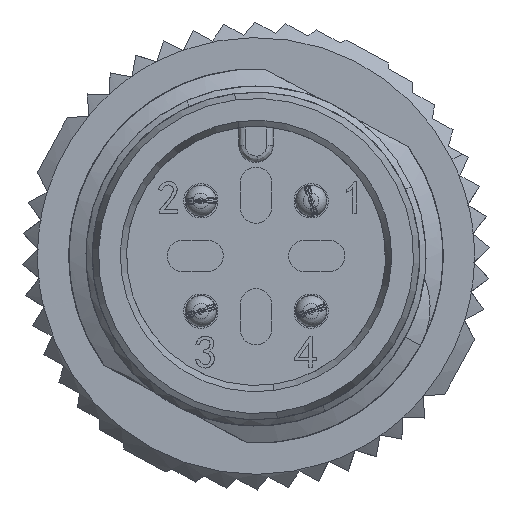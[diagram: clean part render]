
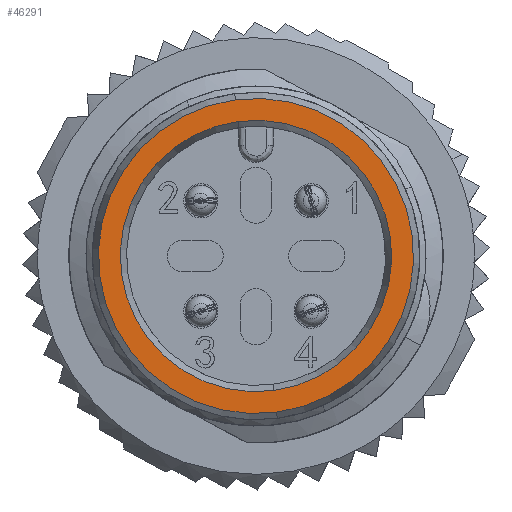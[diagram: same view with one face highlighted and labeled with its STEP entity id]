
A CAD part, left-side view. The second image highlights one B-rep face of the part: STEP entity #46291.
In plain terms, the highlighted planar face has unit normal (-1, 0, 0).
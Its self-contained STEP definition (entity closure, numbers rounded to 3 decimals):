
#536 = ORIENTED_EDGE ( 'NONE', *, *, #43143, .F. ) ;
#656 = DIRECTION ( 'NONE',  ( 0., 0.13, 0.991 ) ) ;
#1501 = DIRECTION ( 'NONE',  ( 1., 0., 0. ) ) ;
#1728 = FACE_OUTER_BOUND ( 'NONE', #12267, .T. ) ;
#2282 = DIRECTION ( 'NONE',  ( 0., 0.13, 0.991 ) ) ;
#3498 = DIRECTION ( 'NONE',  ( 0., -1., 0. ) ) ;
#4226 = CARTESIAN_POINT ( 'NONE',  ( -68.623, 0.659, 5.007 ) ) ;
#4323 = ORIENTED_EDGE ( 'NONE', *, *, #33774, .F. ) ;
#4789 = CIRCLE ( 'NONE', #48101, 5.05 ) ;
#5739 = DIRECTION ( 'NONE',  ( 0., -0.13, -0.991 ) ) ;
#8262 = EDGE_CURVE ( 'NONE', #15168, #38430, #17552, .T. ) ;
#8648 = CARTESIAN_POINT ( 'NONE',  ( -68.623, 0., 0. ) ) ;
#10512 = DIRECTION ( 'NONE',  ( 1., 0., 0. ) ) ;
#12267 = EDGE_LOOP ( 'NONE', ( #536, #4323 ) ) ;
#12863 = CARTESIAN_POINT ( 'NONE',  ( -68.623, -0.659, -5.007 ) ) ;
#13862 = AXIS2_PLACEMENT_3D ( 'NONE', #8648, #23197, #39096 ) ;
#14737 = AXIS2_PLACEMENT_3D ( 'NONE', #46353, #40424, #3498 ) ;
#15168 = VERTEX_POINT ( 'NONE', #23782 ) ;
#17552 = CIRCLE ( 'NONE', #47190, 4.35 ) ;
#17959 = FACE_BOUND ( 'NONE', #27291, .T. ) ;
#20098 = DIRECTION ( 'NONE',  ( 1., 0., 0. ) ) ;
#21547 = VERTEX_POINT ( 'NONE', #4226 ) ;
#23197 = DIRECTION ( 'NONE',  ( 1., 0., 0. ) ) ;
#23782 = CARTESIAN_POINT ( 'NONE',  ( -68.623, -0.567, -4.313 ) ) ;
#26567 = CARTESIAN_POINT ( 'NONE',  ( -68.623, 0.568, 4.313 ) ) ;
#27291 = EDGE_LOOP ( 'NONE', ( #44295, #42113 ) ) ;
#28974 = CIRCLE ( 'NONE', #33234, 5.05 ) ;
#30170 = PLANE ( 'NONE',  #14737 ) ;
#33234 = AXIS2_PLACEMENT_3D ( 'NONE', #42905, #10512, #2282 ) ;
#33774 = EDGE_CURVE ( 'NONE', #39471, #21547, #4789, .T. ) ;
#37058 = CARTESIAN_POINT ( 'NONE',  ( -68.623, 0., 0. ) ) ;
#38430 = VERTEX_POINT ( 'NONE', #26567 ) ;
#39096 = DIRECTION ( 'NONE',  ( 0., -0.13, -0.991 ) ) ;
#39471 = VERTEX_POINT ( 'NONE', #12863 ) ;
#40424 = DIRECTION ( 'NONE',  ( -1., 0., 0. ) ) ;
#42113 = ORIENTED_EDGE ( 'NONE', *, *, #49465, .T. ) ;
#42905 = CARTESIAN_POINT ( 'NONE',  ( -68.623, 0., 0. ) ) ;
#43143 = EDGE_CURVE ( 'NONE', #21547, #39471, #28974, .T. ) ;
#44295 = ORIENTED_EDGE ( 'NONE', *, *, #8262, .T. ) ;
#46291 = ADVANCED_FACE ( 'NONE', ( #1728, #17959 ), #30170, .T. ) ;
#46353 = CARTESIAN_POINT ( 'NONE',  ( -68.623, 3.324, -3.323 ) ) ;
#47190 = AXIS2_PLACEMENT_3D ( 'NONE', #50097, #1501, #5739 ) ;
#48101 = AXIS2_PLACEMENT_3D ( 'NONE', #37058, #20098, #656 ) ;
#49465 = EDGE_CURVE ( 'NONE', #38430, #15168, #52039, .T. ) ;
#50097 = CARTESIAN_POINT ( 'NONE',  ( -68.623, 0., 0. ) ) ;
#52039 = CIRCLE ( 'NONE', #13862, 4.35 ) ;
